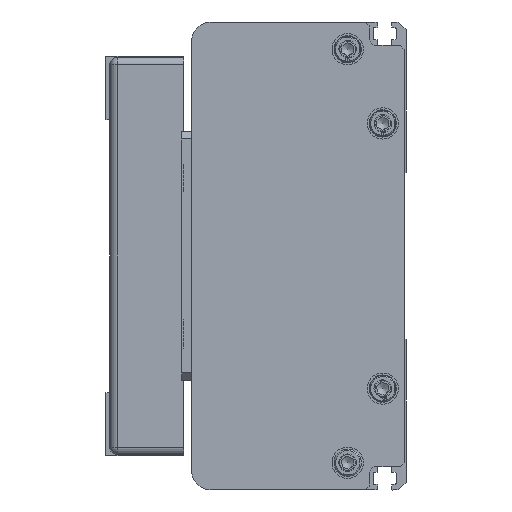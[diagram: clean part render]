
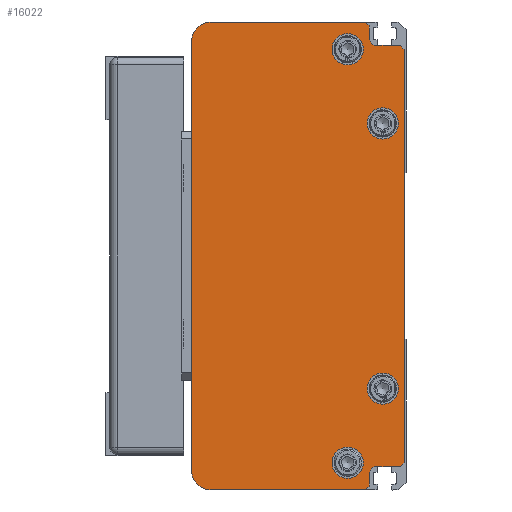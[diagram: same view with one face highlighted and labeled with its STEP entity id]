
A CAD part, left-side view. The second image highlights one B-rep face of the part: STEP entity #16022.
In plain terms, the highlighted planar face has unit normal (-1, 0, 0) as drawn and (0, 0, -1) by its records, which use the part's own axes.
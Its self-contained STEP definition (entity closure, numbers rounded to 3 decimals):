
#846=FACE_BOUND('',#2673,.T.);
#847=FACE_BOUND('',#2674,.T.);
#848=FACE_BOUND('',#2675,.T.);
#849=FACE_BOUND('',#2676,.T.);
#1180=CIRCLE('',#17178,5.);
#1181=CIRCLE('',#17180,5.);
#1182=CIRCLE('',#17181,2.);
#1183=CIRCLE('',#17182,2.);
#1184=CIRCLE('',#17183,4.);
#1185=CIRCLE('',#17184,4.);
#1186=CIRCLE('',#17185,4.);
#1187=CIRCLE('',#17186,4.);
#1624=FACE_OUTER_BOUND('',#2672,.T.);
#2672=EDGE_LOOP('',(#11054,#11055,#11056,#11057,#11058,#11059,#11060,#11061,
#11062,#11063,#11064,#11065,#11066,#11067,#11068,#11069));
#2673=EDGE_LOOP('',(#11070));
#2674=EDGE_LOOP('',(#11071));
#2675=EDGE_LOOP('',(#11072));
#2676=EDGE_LOOP('',(#11073));
#3921=LINE('',#22961,#5454);
#3922=LINE('',#22963,#5455);
#3923=LINE('',#22966,#5456);
#3924=LINE('',#22968,#5457);
#3925=LINE('',#22970,#5458);
#3926=LINE('',#22972,#5459);
#3927=LINE('',#22976,#5460);
#3928=LINE('',#22978,#5461);
#3929=LINE('',#22980,#5462);
#3930=LINE('',#22982,#5463);
#3931=LINE('',#22984,#5464);
#3932=LINE('',#22987,#5465);
#5454=VECTOR('',#18754,1.414);
#5455=VECTOR('',#18755,39.5);
#5456=VECTOR('',#18758,110.);
#5457=VECTOR('',#18759,39.5);
#5458=VECTOR('',#18760,1.414);
#5459=VECTOR('',#18761,3.);
#5460=VECTOR('',#18764,6.);
#5461=VECTOR('',#18765,1.414);
#5462=VECTOR('',#18766,106.);
#5463=VECTOR('',#18767,1.414);
#5464=VECTOR('',#18768,6.);
#5465=VECTOR('',#18771,3.);
#7033=VERTEX_POINT('',#22953);
#7034=VERTEX_POINT('',#22955);
#7035=VERTEX_POINT('',#22959);
#7036=VERTEX_POINT('',#22960);
#7037=VERTEX_POINT('',#22962);
#7038=VERTEX_POINT('',#22964);
#7039=VERTEX_POINT('',#22967);
#7040=VERTEX_POINT('',#22969);
#7041=VERTEX_POINT('',#22971);
#7042=VERTEX_POINT('',#22973);
#7043=VERTEX_POINT('',#22975);
#7044=VERTEX_POINT('',#22977);
#7045=VERTEX_POINT('',#22979);
#7046=VERTEX_POINT('',#22981);
#7047=VERTEX_POINT('',#22983);
#7048=VERTEX_POINT('',#22985);
#7049=VERTEX_POINT('',#22988);
#7050=VERTEX_POINT('',#22990);
#7051=VERTEX_POINT('',#22992);
#7052=VERTEX_POINT('',#22994);
#8639=EDGE_CURVE('',#7033,#7034,#1180,.T.);
#8641=EDGE_CURVE('',#7035,#7036,#3921,.T.);
#8642=EDGE_CURVE('',#7035,#7037,#3922,.T.);
#8643=EDGE_CURVE('',#7038,#7037,#1181,.T.);
#8644=EDGE_CURVE('',#7038,#7034,#3923,.T.);
#8645=EDGE_CURVE('',#7033,#7039,#3924,.T.);
#8646=EDGE_CURVE('',#7040,#7039,#3925,.T.);
#8647=EDGE_CURVE('',#7040,#7041,#3926,.T.);
#8648=EDGE_CURVE('',#7041,#7042,#1182,.T.);
#8649=EDGE_CURVE('',#7042,#7043,#3927,.T.);
#8650=EDGE_CURVE('',#7044,#7043,#3928,.T.);
#8651=EDGE_CURVE('',#7044,#7045,#3929,.T.);
#8652=EDGE_CURVE('',#7046,#7045,#3930,.T.);
#8653=EDGE_CURVE('',#7046,#7047,#3931,.T.);
#8654=EDGE_CURVE('',#7047,#7048,#1183,.T.);
#8655=EDGE_CURVE('',#7048,#7036,#3932,.T.);
#8656=EDGE_CURVE('',#7049,#7049,#1184,.T.);
#8657=EDGE_CURVE('',#7050,#7050,#1185,.T.);
#8658=EDGE_CURVE('',#7051,#7051,#1186,.T.);
#8659=EDGE_CURVE('',#7052,#7052,#1187,.T.);
#11054=ORIENTED_EDGE('',*,*,#8641,.F.);
#11055=ORIENTED_EDGE('',*,*,#8642,.T.);
#11056=ORIENTED_EDGE('',*,*,#8643,.F.);
#11057=ORIENTED_EDGE('',*,*,#8644,.T.);
#11058=ORIENTED_EDGE('',*,*,#8639,.F.);
#11059=ORIENTED_EDGE('',*,*,#8645,.T.);
#11060=ORIENTED_EDGE('',*,*,#8646,.F.);
#11061=ORIENTED_EDGE('',*,*,#8647,.T.);
#11062=ORIENTED_EDGE('',*,*,#8648,.T.);
#11063=ORIENTED_EDGE('',*,*,#8649,.T.);
#11064=ORIENTED_EDGE('',*,*,#8650,.F.);
#11065=ORIENTED_EDGE('',*,*,#8651,.T.);
#11066=ORIENTED_EDGE('',*,*,#8652,.F.);
#11067=ORIENTED_EDGE('',*,*,#8653,.T.);
#11068=ORIENTED_EDGE('',*,*,#8654,.T.);
#11069=ORIENTED_EDGE('',*,*,#8655,.T.);
#11070=ORIENTED_EDGE('',*,*,#8656,.T.);
#11071=ORIENTED_EDGE('',*,*,#8657,.T.);
#11072=ORIENTED_EDGE('',*,*,#8658,.T.);
#11073=ORIENTED_EDGE('',*,*,#8659,.T.);
#15386=PLANE('',#17179);
#16022=ADVANCED_FACE('',(#1624,#846,#847,#848,#849),#15386,.F.);
#17178=AXIS2_PLACEMENT_3D('',#22956,#18749,#18750);
#17179=AXIS2_PLACEMENT_3D('',#22958,#18752,#18753);
#17180=AXIS2_PLACEMENT_3D('',#22965,#18756,#18757);
#17181=AXIS2_PLACEMENT_3D('',#22974,#18762,#18763);
#17182=AXIS2_PLACEMENT_3D('',#22986,#18769,#18770);
#17183=AXIS2_PLACEMENT_3D('',#22989,#18772,#18773);
#17184=AXIS2_PLACEMENT_3D('',#22991,#18774,#18775);
#17185=AXIS2_PLACEMENT_3D('',#22993,#18776,#18777);
#17186=AXIS2_PLACEMENT_3D('',#22995,#18778,#18779);
#18749=DIRECTION('center_axis',(0.,0.,
1.));
#18750=DIRECTION('ref_axis',(0.707,0.707,0.));
#18752=DIRECTION('center_axis',(0.,0.,
1.));
#18753=DIRECTION('ref_axis',(-1.,-0.018,0.));
#18754=DIRECTION('',(0.707,-0.707,0.));
#18755=DIRECTION('',(0.,1.,0.));
#18756=DIRECTION('center_axis',(0.,0.,
1.));
#18757=DIRECTION('ref_axis',(-0.707,0.707,0.));
#18758=DIRECTION('',(1.,0.,0.));
#18759=DIRECTION('',(0.,-1.,0.));
#18760=DIRECTION('',(0.707,0.707,0.));
#18761=DIRECTION('',(-1.,0.,0.));
#18762=DIRECTION('center_axis',(0.,0.,
1.));
#18763=DIRECTION('ref_axis',(0.,-1.,0.));
#18764=DIRECTION('',(0.,-1.,0.));
#18765=DIRECTION('',(0.707,0.707,0.));
#18766=DIRECTION('',(-1.,0.,0.));
#18767=DIRECTION('',(0.707,-0.707,0.));
#18768=DIRECTION('',(0.,1.,0.));
#18769=DIRECTION('center_axis',(0.,0.,
1.));
#18770=DIRECTION('ref_axis',(1.,0.,0.));
#18771=DIRECTION('',(-1.,0.,0.));
#18772=DIRECTION('center_axis',(0.,0.,
1.));
#18773=DIRECTION('ref_axis',(0.,1.,0.));
#18774=DIRECTION('center_axis',(0.,0.,
1.));
#18775=DIRECTION('ref_axis',(0.,1.,0.));
#18776=DIRECTION('center_axis',(0.,0.,
1.));
#18777=DIRECTION('ref_axis',(0.,1.,0.));
#18778=DIRECTION('center_axis',(0.,0.,
1.));
#18779=DIRECTION('ref_axis',(0.,1.,0.));
#22953=CARTESIAN_POINT('',(124.75,50.75,-1342.5));
#22955=CARTESIAN_POINT('',(119.75,55.75,-1342.5));
#22956=CARTESIAN_POINT('Origin',(119.75,50.75,-1342.5));
#22958=CARTESIAN_POINT('Origin',(64.75,28.5,-1342.5));
#22959=CARTESIAN_POINT('',(4.75,11.25,-1342.5));
#22960=CARTESIAN_POINT('',(5.75,10.25,-1342.5));
#22961=CARTESIAN_POINT('',(4.75,11.25,-1342.5));
#22962=CARTESIAN_POINT('',(4.75,50.75,-1342.5));
#22963=CARTESIAN_POINT('',(4.75,11.25,-1342.5));
#22964=CARTESIAN_POINT('',(9.75,55.75,-1342.5));
#22965=CARTESIAN_POINT('Origin',(9.75,50.75,-1342.5));
#22966=CARTESIAN_POINT('',(9.75,55.75,-1342.5));
#22967=CARTESIAN_POINT('',(124.75,11.25,-1342.5));
#22968=CARTESIAN_POINT('',(124.75,50.75,-1342.5));
#22969=CARTESIAN_POINT('',(123.75,10.25,-1342.5));
#22970=CARTESIAN_POINT('',(123.75,10.25,-1342.5));
#22971=CARTESIAN_POINT('',(120.75,10.25,-1342.5));
#22972=CARTESIAN_POINT('',(123.75,10.25,-1342.5));
#22973=CARTESIAN_POINT('',(118.75,8.25,-1342.5));
#22974=CARTESIAN_POINT('Origin',(120.75,8.25,-1342.5));
#22975=CARTESIAN_POINT('',(118.75,2.25,-1342.5));
#22976=CARTESIAN_POINT('',(118.75,8.25,-1342.5));
#22977=CARTESIAN_POINT('',(117.75,1.25,-1342.5));
#22978=CARTESIAN_POINT('',(117.75,1.25,-1342.5));
#22979=CARTESIAN_POINT('',(11.75,1.25,-1342.5));
#22980=CARTESIAN_POINT('',(117.75,1.25,-1342.5));
#22981=CARTESIAN_POINT('',(10.75,2.25,-1342.5));
#22982=CARTESIAN_POINT('',(10.75,2.25,-1342.5));
#22983=CARTESIAN_POINT('',(10.75,8.25,-1342.5));
#22984=CARTESIAN_POINT('',(10.75,2.25,-1342.5));
#22985=CARTESIAN_POINT('',(8.75,10.25,-1342.5));
#22986=CARTESIAN_POINT('Origin',(8.75,8.25,-1342.5));
#22987=CARTESIAN_POINT('',(8.75,10.25,-1342.5));
#22988=CARTESIAN_POINT('',(30.75,10.75,-1342.5));
#22989=CARTESIAN_POINT('Origin',(30.75,6.75,-1342.5));
#22990=CARTESIAN_POINT('',(98.75,10.75,-1342.5));
#22991=CARTESIAN_POINT('Origin',(98.75,6.75,-1342.5));
#22992=CARTESIAN_POINT('',(11.75,19.75,-1342.5));
#22993=CARTESIAN_POINT('Origin',(11.75,15.75,-1342.5));
#22994=CARTESIAN_POINT('',(117.75,19.75,-1342.5));
#22995=CARTESIAN_POINT('Origin',(117.75,15.75,-1342.5));
